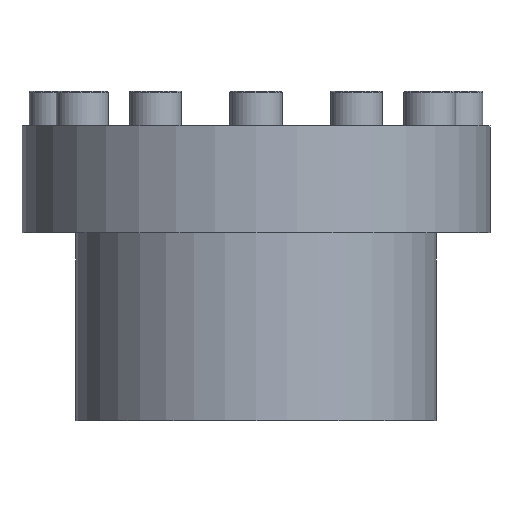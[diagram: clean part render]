
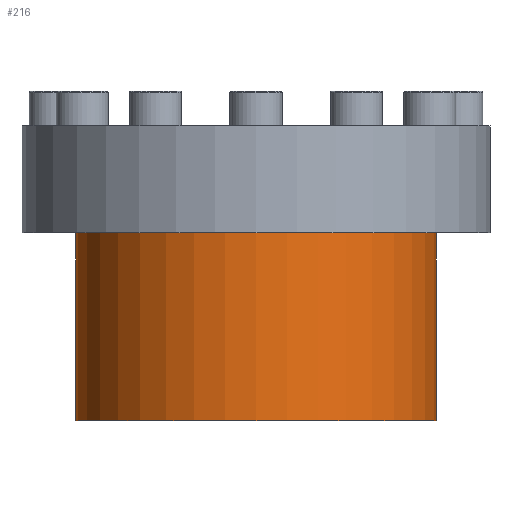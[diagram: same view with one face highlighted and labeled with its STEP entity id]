
A CAD part, front view. The second image highlights one B-rep face of the part: STEP entity #216.
In plain terms, the highlighted cylindrical face has radius 62.4 mm (diameter 124.8 mm), a partial arc.
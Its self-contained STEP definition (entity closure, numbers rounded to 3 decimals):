
#216 = ADVANCED_FACE ( 'NONE', ( #2602 ), #2491, .T. ) ;
#284 = CARTESIAN_POINT ( 'NONE',  ( 62.4, 0., -37. ) ) ;
#368 = LINE ( 'NONE', #3531, #3458 ) ;
#376 = ORIENTED_EDGE ( 'NONE', *, *, #3798, .T. ) ;
#433 = DIRECTION ( 'NONE',  ( 0., 0., 1. ) ) ;
#559 = EDGE_CURVE ( 'NONE', #2036, #2945, #2176, .T. ) ;
#709 = DIRECTION ( 'NONE',  ( 1., 0., 0. ) ) ;
#761 = VERTEX_POINT ( 'NONE', #3176 ) ;
#880 = CARTESIAN_POINT ( 'NONE',  ( 0., 0., 0. ) ) ;
#980 = ORIENTED_EDGE ( 'NONE', *, *, #1803, .T. ) ;
#1387 = CARTESIAN_POINT ( 'NONE',  ( -62.4, 0., 0. ) ) ;
#1678 = CARTESIAN_POINT ( 'NONE',  ( -62.4, 0., -102. ) ) ;
#1741 = EDGE_LOOP ( 'NONE', ( #2601, #376, #980, #4166 ) ) ;
#1803 = EDGE_CURVE ( 'NONE', #761, #2945, #368, .T. ) ;
#1856 = DIRECTION ( 'NONE',  ( 1., 0., 0. ) ) ;
#2036 = VERTEX_POINT ( 'NONE', #4279 ) ;
#2114 = LINE ( 'NONE', #1387, #4200 ) ;
#2176 = CIRCLE ( 'NONE', #3470, 62.4 ) ;
#2186 = AXIS2_PLACEMENT_3D ( 'NONE', #880, #2873, #1856 ) ;
#2371 = CARTESIAN_POINT ( 'NONE',  ( 0., 0., -37. ) ) ;
#2386 = DIRECTION ( 'NONE',  ( 0., 0., 1. ) ) ;
#2477 = DIRECTION ( 'NONE',  ( 0., 0., 1. ) ) ;
#2491 = CYLINDRICAL_SURFACE ( 'NONE', #2186, 62.4 ) ;
#2493 = EDGE_CURVE ( 'NONE', #3915, #2036, #2114, .T. ) ;
#2601 = ORIENTED_EDGE ( 'NONE', *, *, #2493, .F. ) ;
#2602 = FACE_OUTER_BOUND ( 'NONE', #1741, .T. ) ;
#2873 = DIRECTION ( 'NONE',  ( 0., 0., 1. ) ) ;
#2945 = VERTEX_POINT ( 'NONE', #284 ) ;
#3160 = DIRECTION ( 'NONE',  ( 0., 0., 1. ) ) ;
#3176 = CARTESIAN_POINT ( 'NONE',  ( 62.4, 0., -102. ) ) ;
#3433 = AXIS2_PLACEMENT_3D ( 'NONE', #4193, #2477, #3869 ) ;
#3458 = VECTOR ( 'NONE', #433, 1000. ) ;
#3470 = AXIS2_PLACEMENT_3D ( 'NONE', #2371, #2386, #709 ) ;
#3531 = CARTESIAN_POINT ( 'NONE',  ( 62.4, 0., 0. ) ) ;
#3798 = EDGE_CURVE ( 'NONE', #3915, #761, #4297, .T. ) ;
#3869 = DIRECTION ( 'NONE',  ( 1., 0., 0. ) ) ;
#3915 = VERTEX_POINT ( 'NONE', #1678 ) ;
#4166 = ORIENTED_EDGE ( 'NONE', *, *, #559, .F. ) ;
#4193 = CARTESIAN_POINT ( 'NONE',  ( 0., 0., -102. ) ) ;
#4200 = VECTOR ( 'NONE', #3160, 1000. ) ;
#4279 = CARTESIAN_POINT ( 'NONE',  ( -62.4, 0., -37. ) ) ;
#4297 = CIRCLE ( 'NONE', #3433, 62.4 ) ;
